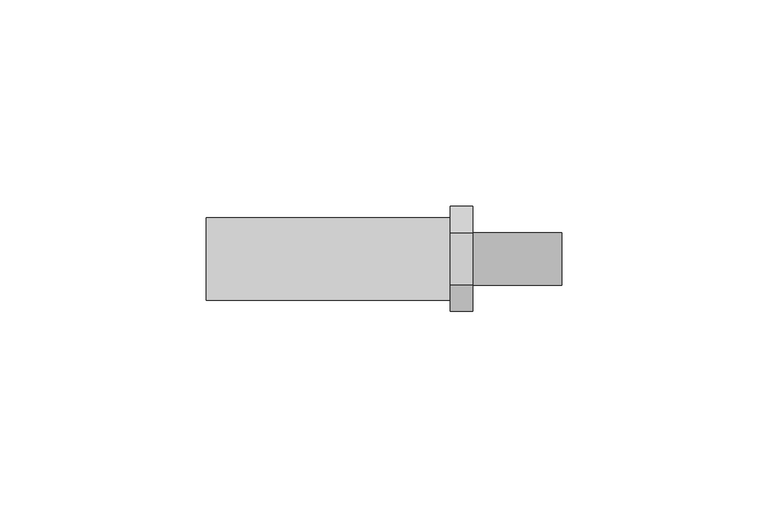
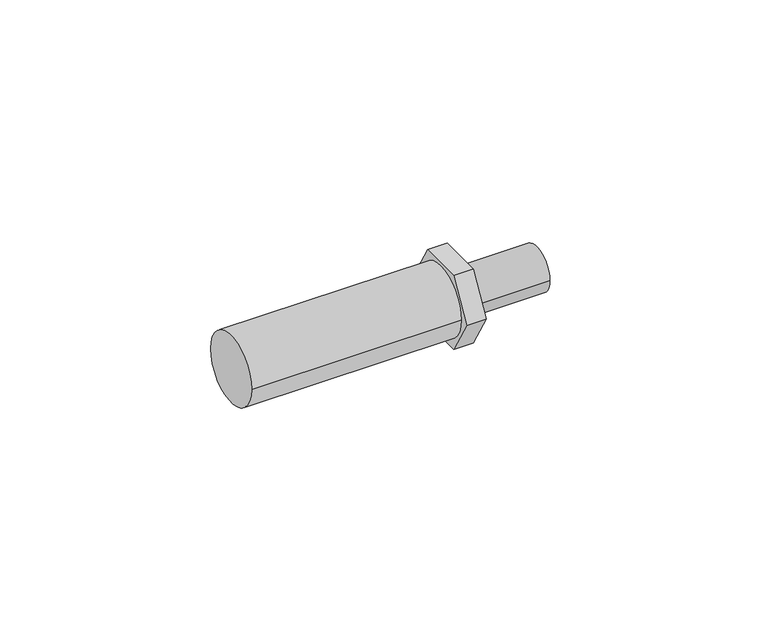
"""IFC4 building model written with IfcOpenShell, lengths in millimetres: pipe fitting geometry, 01011113 : Espiga conexion roscada."""

from ifc_helpers import new_model, si_unit, point, frame, origin, origin_2d, place, context, project, spatial, circle_curve, trimmed, segment, composite_curve, outline, extrude, source, transform, mapped, element, save
from ifc_brep_helpers import plane_surface, cylinder_surface, advanced_brep


def pipe_fitting_8802db2e(model_context):
    return source(origin(), model_context, "Body", "SolidModel", [
        extrude(outline(composite_curve([segment(trimmed(circle_curve(origin_2d(), 10.0), [point((10.0, 0.0))], [point((-10.0, 0.0))], False, "CARTESIAN"), True, "CONTINUOUS"), segment(trimmed(circle_curve(origin_2d(), 10.0), [point((-10.0, 0.0))], [point((10.0, 0.0))], False, "CARTESIAN"), True, "CONTINUOUS")], self_intersect=False)), frame((-43.0, 0.0, 0.0), z_axis=(1.0, 0.0, 0.0), x_axis=(0.0, 1.0, 0.0)), (0.0, 0.0, 1.0), 59.0),
        advanced_brep(
        [(21.5, -6.350853, 11.0), (21.5, -12.7017059, 0.0), (21.5, -6.350853, -11.0), (21.5, 6.350853, -11.0), (21.5, 12.7017059, 0.0), (21.5, 6.350853, 11.0), (21.5, -6.35, 0.0), (21.5, 6.35, 0.0), (16.0, -6.350853, 11.0), (16.0, 6.350853, 11.0), (16.0, 12.7017059, 0.0), (16.0, 6.350853, -11.0), (16.0, -6.350853, -11.0), (16.0, -12.7017059, 0.0), (43.0, -6.35, 0.0), (43.0, 6.35, 0.0)],
        [
            (0, 1),
            (1, 2),
            (2, 3),
            (3, 4),
            (4, 5),
            (5, 0),
            (6, 7, circle_curve(frame((21.5, 0.0, 0.0), z_axis=(-1.0, 0.0, 0.0), x_axis=(0.0, 1.0, 0.0)), 6.35)),
            (7, 6, circle_curve(frame((21.5, 0.0, 0.0), z_axis=(-1.0, 0.0, 0.0), x_axis=(0.0, 1.0, 0.0)), 6.35)),
            (8, 9),
            (9, 10),
            (10, 11),
            (11, 12),
            (12, 13),
            (13, 8),
            (0, 8),
            (13, 1),
            (12, 2),
            (11, 3),
            (10, 4),
            (9, 5),
            (14, 15, circle_curve(frame((43.0, 0.0, 0.0), z_axis=(1.0, 0.0, 0.0), x_axis=(0.0, 1.0, 0.0)), 6.35)),
            (15, 14, circle_curve(frame((43.0, 0.0, 0.0), z_axis=(1.0, 0.0, 0.0), x_axis=(0.0, 1.0, 0.0)), 6.35)),
            (15, 7),
            (6, 14),
        ],
        [
            plane_surface(frame((21.5, -6.350853, 11.0), z_axis=(1.0, 0.0, 0.0), x_axis=(0.0, -0.5000000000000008, -0.8660254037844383))),
            plane_surface(frame((16.0, -6.350853, 11.0), z_axis=(-1.0, 0.0, 0.0), x_axis=(0.0, 0.5000000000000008, 0.8660254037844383))),
            plane_surface(frame((21.5, -6.350853, 11.0), z_axis=(0.0, -0.8660254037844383, 0.5000000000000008), x_axis=(-1.0, 0.0, 0.0))),
            plane_surface(frame((21.5, -12.7017059, 0.0), z_axis=(0.0, -0.8660254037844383, -0.5000000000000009), x_axis=(-1.0, 0.0, 0.0))),
            plane_surface(frame((21.5, -6.350853, -11.0), z_axis=(0.0, 0.0, -1.0), x_axis=(-1.0, 0.0, 0.0))),
            plane_surface(frame((21.5, 6.350853, -11.0), z_axis=(0.0, 0.8660254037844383, -0.5000000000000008), x_axis=(-1.0, 0.0, 0.0))),
            plane_surface(frame((21.5, 12.7017059, 0.0), z_axis=(0.0, 0.8660254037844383, 0.5000000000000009), x_axis=(-1.0, 0.0, 0.0))),
            plane_surface(frame((21.5, 6.350853, 11.0), z_axis=(0.0, 0.0, 1.0), x_axis=(-1.0, 0.0, 0.0))),
            plane_surface(frame((43.0, 0.0, 0.0), z_axis=(1.0, 0.0, 0.0), x_axis=(0.0, 0.0, 1.0))),
            cylinder_surface(frame((21.5, 0.0, 0.0), z_axis=(-1.0, 0.0, 0.0), x_axis=(0.0, 1.0, 0.0)), 6.35),
        ],
        [
            (0, [[1, 2, 3, 4, 5, 6], [7, 8]]),
            (1, [[9, 10, 11, 12, 13, 14]]),
            (2, [[-1, 15, -14, 16]]),
            (3, [[-2, -16, -13, 17]]),
            (4, [[-3, -17, -12, 18]]),
            (5, [[-4, -18, -11, 19]]),
            (6, [[-5, -19, -10, 20]]),
            (7, [[-6, -20, -9, -15]]),
            (8, [[21, 22]]),
            (9, [[-22, 23, -7, 24]]),
            (9, [[-21, -24, -8, -23]]),
        ],
    ),
    ])


if __name__ == "__main__":
    model = new_model("IFC4")
    model_context = context("Model", 3, world=origin())
    ifc_project = project(units=[si_unit("LENGTHUNIT", "METRE", prefix="MILLI")], contexts=[model_context])
    site = spatial("IfcSite", under=ifc_project)
    building = spatial("IfcBuilding", under=site)
    placement = place(None, origin())
    pipe_fitting_shape = pipe_fitting_8802db2e(model_context)
    element("IfcPipeFitting", 1, ObjectType="01011113 : Espiga conexion roscada", at=placement, inside=building, context=model_context, shape_type="MappedRepresentation", body=[
        mapped(pipe_fitting_shape, transform((0.0, 0.0, 0.0), x_axis=(1.0, 0.0, 0.0), y_axis=(0.0, 1.0, 0.0), z_axis=(0.0, 0.0, 1.0))),
    ])
    save(model, "model.ifc")
